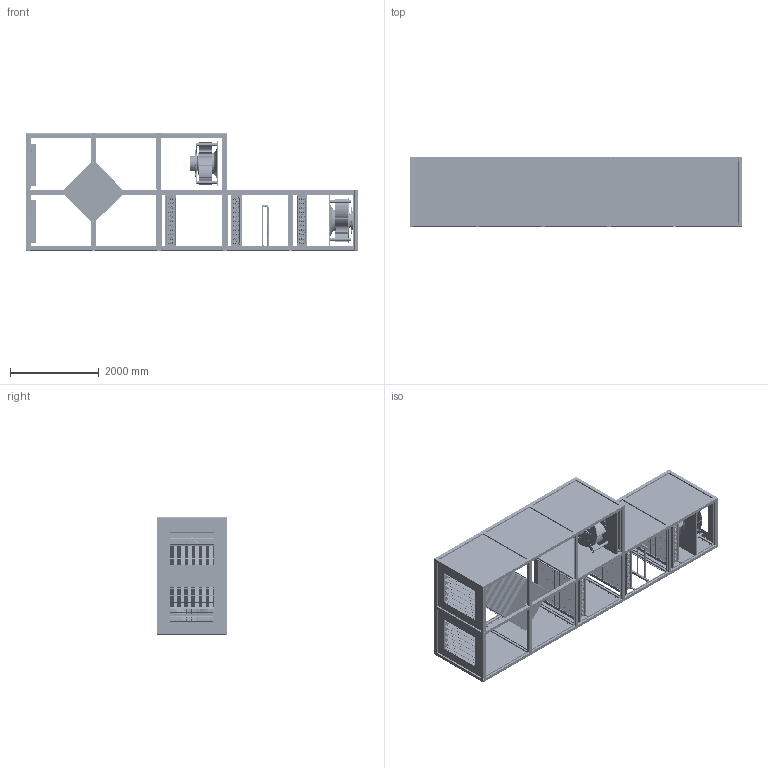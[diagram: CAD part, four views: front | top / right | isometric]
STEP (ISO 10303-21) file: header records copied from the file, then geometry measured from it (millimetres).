
FILE_DESCRIPTION(/* description */ (''),/* implementation_level */ '2;1');
FILE_NAME(/* name */ 'C:\Users\Ryzen5700u\Desktop\uta\uta_completa.stp',/* time_stamp */ '2021-11-18T13:22:21+01:00',/* author */ ('Ryzen5700u'),/* organization */ (''),/* preprocessor_version */ 'ST-DEVELOPER v18.1',/* originating_system */ 'Autodesk Inventor 2022',/* authorisation */ '');
FILE_SCHEMA (('AUTOMOTIVE_DESIGN { 1 0 10303 214 3 1 1 }'));
Products named in the file (56): uta_telaio; telaio_modulo; telaio_modulo2; telaio_modulo3; giunzione3; giunzione3_MIR; telaio_modulo4; profilato_2_1400_MIR2; giunzione3_MIR1; giunzione3_MIR_MIR; telaio_modulo5; profilato_2_1200; profilato_2_1200_MIR1; profilato_3_1400; giunzione4_MIR; giunzione4_MIR2; lamiera_140x140; lamiera_140x140_forata; serranda_aria_viziata; lamiera_L; lamiera_L_serranda_fori; albero_serranda; Ingranaggio cilindrico2; aletta_serranda; Worm_Gear_Motor_12V; telaio_modulo6; profilato_2_1400; profilato_2_1400_MIR; profilato_2_1400_MIR1; profilato_2_1400_MIR_MIR; profilato_3_1200; profilato_3_1200_MIR; profilato_3_1400_MIR; giunzione4_MIR_1; giunzione4; giunzione4_MIR1; batteria finale; tubi; lamiera; raccoglitore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
Assembly tree (226 placements, depth 3):
  uta_telaio
    telaio_modulo
      profilato_2_1200
      profilato_2_1400  x2
      profilato_2_1400_MIR
      profilato_2_1200_MIR1
      profilato_2_1400_MIR1
      profilato_2_1400_MIR_MIR
      profilato_3_1200
      profilato_3_1200_MIR
      profilato_3_1400
      profilato_3_1400_MIR
      profilato_2_1400_MIR2
      giunzione4  x2
      giunzione4_MIR
      giunzione4_MIR1
      giunzione3
      giunzione3_MIR
      giunzione3_MIR1
      giunzione3_MIR_MIR
    telaio_modulo2  x2
      profilato_2_1400
      profilato_2_1400_MIR
      profilato_2_1400_MIR1
      profilato_2_1400_MIR_MIR
      profilato_3_1200
      profilato_3_1200_MIR
      profilato_3_1400
      profilato_3_1400_MIR
      giunzione4
      giunzione4_MIR
      giunzione4_MIR1
    telaio_modulo3
      profilato_2_1200
      profilato_2_1400  x2
      profilato_2_1400_MIR
      profilato_2_1200_MIR1
      profilato_2_1400_MIR1
      profilato_2_1400_MIR_MIR
      profilato_2_1400_MIR2
      giunzione3
      giunzione3_MIR
      giunzione3_MIR1
      giunzione3_MIR_MIR
    telaio_modulo4  x2
      profilato_2_1200
      profilato_2_1400
      profilato_2_1200_MIR1
      profilato_2_1400_MIR1
      profilato_2_1400_MIR2
      giunzione3_MIR1
      giunzione3_MIR_MIR
    telaio_modulo5
      profilato_2_1200
      profilato_2_1400_MIR
      profilato_2_1200_MIR1
      profilato_2_1400_MIR_MIR
      profilato_3_1200
      profilato_3_1200_MIR
      profilato_3_1400
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Bounding box: 7480 x 1564.5 x 2640 mm (x, y, z)
Volume: 619099588.2 mm3; surface area: 353797928.8 mm2
Topology: 405 solids, 900 shells, 26823 faces, 71998 edges, 47281 vertices
Faces by surface type: cylinder 18554, plane 7760, torus 478, cone 28, bspline 3
Full cylindrical faces by diameter (mm): 4 x24, 5.394 x8, 8 x30, 14 x12, 15 x74, 17.846 x330, 19 x4, 19.829 x15906, 31 x6, 32 x6, 36 x40, 36.6 x6, 40 x1, 40.072 x6, 42.037 x6, 50 x3, 60 x8, 350 x2, 430 x2, 452.105 x2, 480 x2, 490 x2, 500 x2, 780 x2, 800 x6, 1000 x2
Entity records: 78742 total; most frequent: DIRECTION 14367, CARTESIAN_POINT 13618, ORIENTED_EDGE 11146, EDGE_CURVE 5573, AXIS2_PLACEMENT_3D 5287, LINE 3793, VECTOR 3793, VERTEX_POINT 3521
